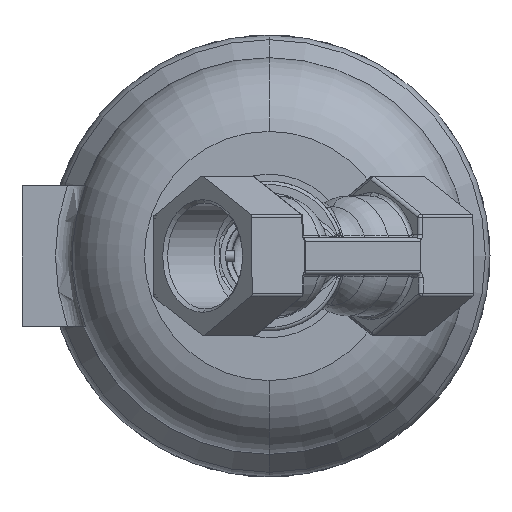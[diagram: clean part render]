
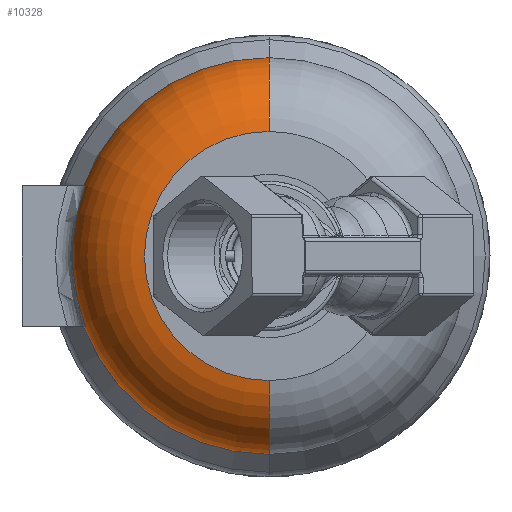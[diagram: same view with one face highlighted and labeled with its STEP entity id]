
A CAD part, front view. The second image highlights one B-rep face of the part: STEP entity #10328.
In plain terms, the highlighted toroidal (fillet/blend) face has major radius 31.657 mm and minor radius 25.343 mm.
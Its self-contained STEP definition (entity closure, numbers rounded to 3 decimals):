
#232 = DIRECTION ( 'NONE',  ( 0., 0., -1. ) ) ;
#273 = DIRECTION ( 'NONE',  ( 0., -1., 0. ) ) ;
#308 = CARTESIAN_POINT ( 'NONE',  ( 0., 124.572, 0. ) ) ;
#538 = CARTESIAN_POINT ( 'NONE',  ( 0., 99.572, 35.814 ) ) ;
#672 = B_SPLINE_CURVE_WITH_KNOTS ( 'NONE', 3,
 ( #8802, #9161, #8770, #8732, #8958, #8820 ),
 .UNSPECIFIED., .F., .F.,
 ( 4, 2, 4 ),
 ( 0.063, 0.065, 0.068 ),
 .UNSPECIFIED. ) ;
#734 = CIRCLE ( 'NONE', #1495, 56.5 ) ;
#807 = CARTESIAN_POINT ( 'NONE',  ( 0., 124.572, -57. ) ) ;
#976 = AXIS2_PLACEMENT_3D ( 'NONE', #12378, #4284, #7136 ) ;
#1320 = B_SPLINE_CURVE_WITH_KNOTS ( 'NONE', 3,
 ( #2117, #2142, #2087, #2068, #2056, #2042 ),
 .UNSPECIFIED., .F., .F.,
 ( 4, 2, 4 ),
 ( 0.202, 0.204, 0.207 ),
 .UNSPECIFIED. ) ;
#1337 = ORIENTED_EDGE ( 'NONE', *, *, #6636, .T. ) ;
#1418 = EDGE_CURVE ( 'NONE', #3595, #5542, #10090, .T. ) ;
#1495 = AXIS2_PLACEMENT_3D ( 'NONE', #3085, #3068, #3035 ) ;
#1605 = EDGE_CURVE ( 'NONE', #2377, #7620, #734, .T. ) ;
#1887 = CARTESIAN_POINT ( 'NONE',  ( 0., 99.572, -35.814 ) ) ;
#2022 = VERTEX_POINT ( 'NONE', #10450 ) ;
#2042 = CARTESIAN_POINT ( 'NONE',  ( -52.746, 119.561, -20.25 ) ) ;
#2056 = CARTESIAN_POINT ( 'NONE',  ( -52.925, 120.39, -20.25 ) ) ;
#2068 = CARTESIAN_POINT ( 'NONE',  ( -53.059, 121.223, -20.25 ) ) ;
#2087 = CARTESIAN_POINT ( 'NONE',  ( -53.237, 122.893, -20.25 ) ) ;
#2117 = CARTESIAN_POINT ( 'NONE',  ( -53.282, 124.572, -20.25 ) ) ;
#2142 = CARTESIAN_POINT ( 'NONE',  ( -53.282, 123.731, -20.25 ) ) ;
#2365 = CARTESIAN_POINT ( 'NONE',  ( -53.282, 124.572, -20.25 ) ) ;
#2377 = VERTEX_POINT ( 'NONE', #11181 ) ;
#2409 = AXIS2_PLACEMENT_3D ( 'NONE', #5115, #5089, #5076 ) ;
#2540 = EDGE_CURVE ( 'NONE', #2377, #3212, #672, .T. ) ;
#2577 = EDGE_CURVE ( 'NONE', #6607, #5360, #2667, .T. ) ;
#2667 = CIRCLE ( 'NONE', #976, 35.814 ) ;
#2682 = ORIENTED_EDGE ( 'NONE', *, *, #2577, .F. ) ;
#3034 = ORIENTED_EDGE ( 'NONE', *, *, #1605, .T. ) ;
#3035 = DIRECTION ( 'NONE',  ( 0., 0., 1. ) ) ;
#3068 = DIRECTION ( 'NONE',  ( 0., -1., 0. ) ) ;
#3085 = CARTESIAN_POINT ( 'NONE',  ( 0., 119.561, 0. ) ) ;
#3150 = FACE_OUTER_BOUND ( 'NONE', #4312, .T. ) ;
#3179 = CIRCLE ( 'NONE', #10821, 25.343 ) ;
#3212 = VERTEX_POINT ( 'NONE', #10479 ) ;
#3377 = DIRECTION ( 'NONE',  ( 0., 0., -1. ) ) ;
#3426 = DIRECTION ( 'NONE',  ( 0., -1., 0. ) ) ;
#3595 = VERTEX_POINT ( 'NONE', #2365 ) ;
#3666 = ORIENTED_EDGE ( 'NONE', *, *, #2540, .F. ) ;
#4284 = DIRECTION ( 'NONE',  ( 0., -1., 0. ) ) ;
#4312 = EDGE_LOOP ( 'NONE', ( #10965, #1337, #3666, #3034, #6970, #7568, #5637, #2682 ) ) ;
#4649 = CARTESIAN_POINT ( 'NONE',  ( 0., 124.572, 0. ) ) ;
#5076 = DIRECTION ( 'NONE',  ( 0., 0., -1. ) ) ;
#5089 = DIRECTION ( 'NONE',  ( 0., -1., 0. ) ) ;
#5115 = CARTESIAN_POINT ( 'NONE',  ( 0., 124.572, 0. ) ) ;
#5360 = VERTEX_POINT ( 'NONE', #1887 ) ;
#5436 = CIRCLE ( 'NONE', #6052, 25.343 ) ;
#5542 = VERTEX_POINT ( 'NONE', #807 ) ;
#5637 = ORIENTED_EDGE ( 'NONE', *, *, #7656, .T. ) ;
#6052 = AXIS2_PLACEMENT_3D ( 'NONE', #6697, #6266, #7130 ) ;
#6266 = DIRECTION ( 'NONE',  ( 1., 0., 0. ) ) ;
#6607 = VERTEX_POINT ( 'NONE', #538 ) ;
#6636 = EDGE_CURVE ( 'NONE', #2022, #3212, #11136, .T. ) ;
#6697 = CARTESIAN_POINT ( 'NONE',  ( 0., 124.572, 31.657 ) ) ;
#6970 = ORIENTED_EDGE ( 'NONE', *, *, #9111, .F. ) ;
#7130 = DIRECTION ( 'NONE',  ( 0., 0., -1. ) ) ;
#7136 = DIRECTION ( 'NONE',  ( 0., 0., -1. ) ) ;
#7445 = EDGE_CURVE ( 'NONE', #2022, #6607, #5436, .T. ) ;
#7568 = ORIENTED_EDGE ( 'NONE', *, *, #1418, .T. ) ;
#7620 = VERTEX_POINT ( 'NONE', #12076 ) ;
#7656 = EDGE_CURVE ( 'NONE', #5542, #5360, #3179, .T. ) ;
#8732 = CARTESIAN_POINT ( 'NONE',  ( -53.237, 122.896, 20.25 ) ) ;
#8770 = CARTESIAN_POINT ( 'NONE',  ( -53.059, 121.225, 20.25 ) ) ;
#8802 = CARTESIAN_POINT ( 'NONE',  ( -52.746, 119.561, 20.25 ) ) ;
#8820 = CARTESIAN_POINT ( 'NONE',  ( -53.282, 124.572, 20.25 ) ) ;
#8958 = CARTESIAN_POINT ( 'NONE',  ( -53.282, 123.733, 20.25 ) ) ;
#9111 = EDGE_CURVE ( 'NONE', #3595, #7620, #1320, .T. ) ;
#9161 = CARTESIAN_POINT ( 'NONE',  ( -52.926, 120.392, 20.25 ) ) ;
#10090 = CIRCLE ( 'NONE', #2409, 57. ) ;
#10328 = ADVANCED_FACE ( 'NONE', ( #3150 ), #11146, .T. ) ;
#10450 = CARTESIAN_POINT ( 'NONE',  ( 0., 124.572, 57. ) ) ;
#10479 = CARTESIAN_POINT ( 'NONE',  ( -53.282, 124.572, 20.25 ) ) ;
#10821 = AXIS2_PLACEMENT_3D ( 'NONE', #11709, #11573, #11530 ) ;
#10965 = ORIENTED_EDGE ( 'NONE', *, *, #7445, .F. ) ;
#11136 = CIRCLE ( 'NONE', #11665, 57. ) ;
#11146 = TOROIDAL_SURFACE ( 'NONE', #13097, 31.657, 25.343 ) ;
#11181 = CARTESIAN_POINT ( 'NONE',  ( -52.746, 119.561, 20.25 ) ) ;
#11530 = DIRECTION ( 'NONE',  ( 0., 0., 1. ) ) ;
#11573 = DIRECTION ( 'NONE',  ( -1., 0., 0. ) ) ;
#11665 = AXIS2_PLACEMENT_3D ( 'NONE', #308, #273, #232 ) ;
#11709 = CARTESIAN_POINT ( 'NONE',  ( 0., 124.572, -31.657 ) ) ;
#12076 = CARTESIAN_POINT ( 'NONE',  ( -52.746, 119.561, -20.25 ) ) ;
#12378 = CARTESIAN_POINT ( 'NONE',  ( 0., 99.572, 0. ) ) ;
#13097 = AXIS2_PLACEMENT_3D ( 'NONE', #4649, #3426, #3377 ) ;
